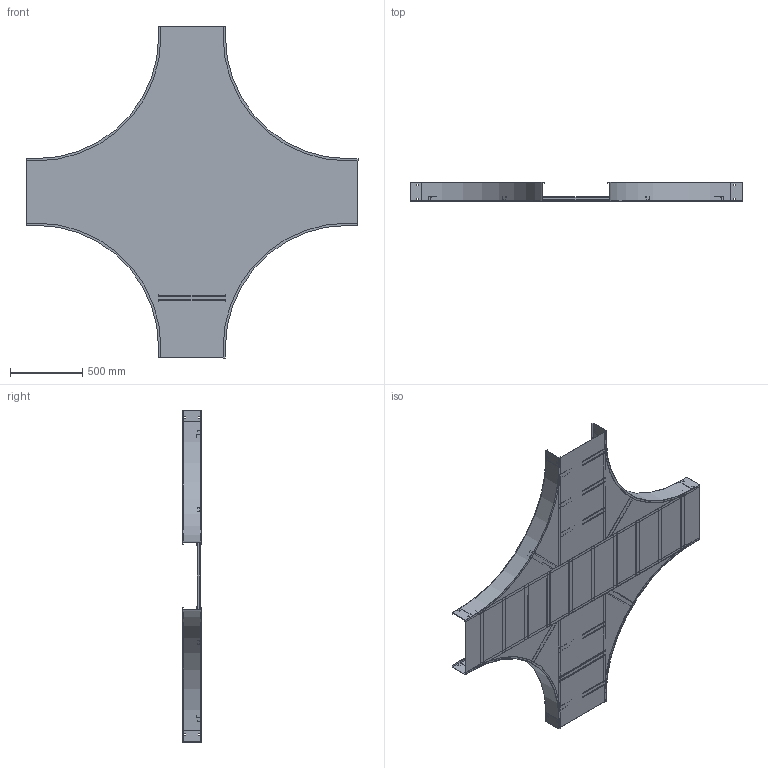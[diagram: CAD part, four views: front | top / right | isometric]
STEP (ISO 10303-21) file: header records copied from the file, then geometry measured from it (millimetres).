
FILE_DESCRIPTION((''),'2;1');
FILE_NAME('AUF518SHX36_ASM','2010-02-01T',('erouzier'),(''),'PRO/ENGINEER BY PARAMETRIC TECHNOLOGY CORPORATION, 2008510','PRO/ENGINEER BY PARAMETRIC TECHNOLOGY CORPORATION, 2008510','');
FILE_SCHEMA(('CONFIG_CONTROL_DESIGN'));
Length unit declared in the file: inch
Products named in the file (24): CDS001320-5-90-33-I; CDS002159L18_AF18; CDS002159L18_AF19; CDS002159L18_AF20; CDS002159L18_AF21; CDS002159L18_AF27; CDS002159L18_AF22; CDS002159L18_AF23; CDS002159L18_AF24; CDS002159L18_AF26; CDS002159L18_AF25; CDS000495_GEN_AF18; CDS000495_GEN_AF19; CDS000495_GEN_AF22; CDS000495_GEN_AF23; CDS000495_GEN_AF20; CDS000495_GEN_AF21; CDS002159L18_AF16; CDS002159L18_AF17; CDS002159L18_AF14; CDS002159L18_AF15; CDS002159L18; CDS005016-18-36-18; AUF518SHX36_ASM
Assembly tree (31 placements, depth 2):
  AUF518SHX36_ASM
    CDS001320-5-90-33-I  x4
    CDS002159L18_AF18
    CDS002159L18_AF19
    CDS002159L18_AF20
    CDS002159L18_AF21
    CDS002159L18_AF27
    CDS002159L18_AF22
    CDS002159L18_AF23
    CDS002159L18_AF24
    CDS002159L18_AF26
    CDS002159L18_AF25
    CDS000495_GEN_AF18
    CDS000495_GEN_AF19
    CDS000495_GEN_AF22
    CDS000495_GEN_AF23
    CDS000495_GEN_AF20
    CDS000495_GEN_AF21
    CDS002159L18_AF16
    CDS002159L18_AF17
    CDS002159L18_AF14
    CDS002159L18_AF15
    CDS002159L18  x6
    CDS005016-18-36-18
Bounding box: 2291.08 x 129.03 x 2291.08 mm (x, y, z)
Volume: 7026636.6 mm3; surface area: 9829425.8 mm2
Topology: 31 solids, 31 shells, 814 faces, 2256 edges, 1504 vertices
Faces by surface type: plane 574, cylinder 240
Entity records: 18696 total; most frequent: CARTESIAN_POINT 3541, ORIENTED_EDGE 3096, DIRECTION 3040, EDGE_CURVE 1548, VECTOR 1202, LINE 1202, VERTEX_POINT 1032, AXIS2_PLACEMENT_3D 919
